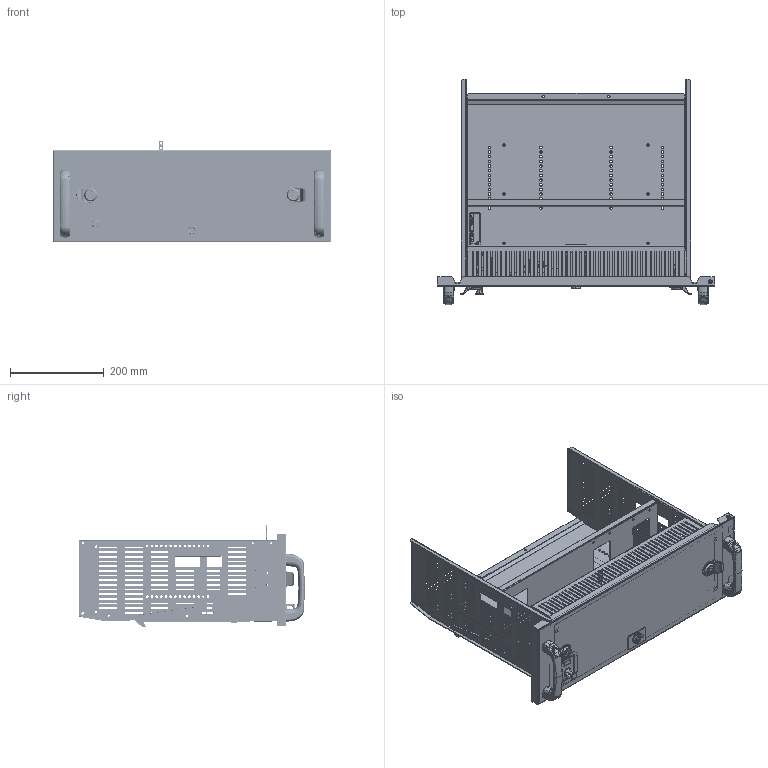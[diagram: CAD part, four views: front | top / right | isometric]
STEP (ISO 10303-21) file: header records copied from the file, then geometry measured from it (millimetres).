
FILE_DESCRIPTION(('CAx-IF Rec.Pracs.---Model Styling and Organization---1.2---2011-12-15','CAx-IF Rec.Pracs.---Geometric and Assembly Validation Properties---4.1---2014-06-16','CAx-IF Rec.Pracs.---PMI Polyline Presentation---2.0---2013-05-24'),'2;1');
FILE_NAME('R5M2W4M1B-L.stp','2021-05-05T12:20:33+03:00',(''),(''),'STEP Interface 4.4 by CT CoreTechnologie','3D_Evolution4.4 by CT CoreTechnologie','');
FILE_SCHEMA(('AUTOMOTIVE_DESIGN { 1 0 10303 214 1 1 1 1 }'));
Length unit declared in the file: millimetre
Products named in the file (73): R5M2W4M1B; RB.1946.00.00.0; RB.1942.00.00.0_-01; RB.1942.00.01.0_-01; RB.1166.00.02.0_¢ à 1; RB.1166.00.03.0_-00; RB.1166.00.04.0_-00; PF 7x14 RAMmcc 2.0_4å1; Ì6õ12-A5100231_straight; RB.1166.00.05.0; PF 3.5x7 RAMmcc 2.0_00; M6x20 GOST 17475-80 (DIN 965)_stright; 4.444.002; PR.DT477.120.02-poprawa; PR.DT477.120.01; RB.1505.00.00.1 ÑÁ; M5x12-DIN 7500M ISR_stright; Ì4-GOST R 50273-92 (DIN 985)_stright DIN EN ISO 10511 - M4 - N; RB.1505.00.02.0; RB.1505.00.01.1; RB.1504.00.00.1 ÑÁ; RB.1504.00.01.1; RB.1504.00.02.1_-01; RB.1504.00.02.1_-00; RB.1504.00.03.1; RB.1504.01.00.0 ÑÁ; RB.1504.01.01.0; M6-DIN 985 (ISO 10511) (CM250600)_stright; RB.1505.00.03.0_-00; A.6.01-GOST 11371-78 (DIN 125A) (CM240600)_ ©¡  A.6.016  11371-78; RB.1513.00.00.0; M5x8-DIN7500C_stright; RB.1505.00.04.0_-00; RB.1503.00.00.0 ÑÁ; RB.1503.00.01.0_-00; RB.1503.00.02.0_-00; RB.1503.00.03.0_123; RB.1503.00.04.0_123; RB.1503.00.05.0_123; RB.1503.00.06.0_-00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
Assembly tree (108 placements, depth 5):
  R5M2W4M1B
    RB.1946.00.00.0
    RB.1942.00.00.0_-01
      RB.1942.00.01.0_-01
      RB.1166.00.02.0_¢ à 1
      RB.1166.00.03.0_-00
      RB.1166.00.04.0_-00
      PF 7x14 RAMmcc 2.0_4å1
      Ì6õ12-A5100231_straight
      RB.1166.00.05.0  x2
      PF 3.5x7 RAMmcc 2.0_00
    M6x20 GOST 17475-80 (DIN 965)_stright  x3
    4.444.002  x2
      PR.DT477.120.02-poprawa
      PR.DT477.120.01
    RB.1505.00.00.1 ÑÁ
      M5x12-DIN 7500M ISR_stright  x6
      Ì4-GOST R 50273-92 (DIN 985)_stright DIN EN ISO 10511 - M4 - N  x10
      RB.1505.00.02.0  x2
      RB.1505.00.01.1
      RB.1504.00.00.1 ÑÁ
        RB.1504.00.01.1
        RB.1504.00.02.1_-01
        RB.1504.00.02.1_-00
        RB.1504.00.03.1
        RB.1504.01.00.0 ÑÁ
          RB.1504.01.01.0
      M6-DIN 985 (ISO 10511) (CM250600)_stright
      RB.1505.00.03.0_-00
      A.6.01-GOST 11371-78 (DIN 125A) (CM240600)_ ©¡  A.6.016  11371-78
      RB.1513.00.00.0
      M5x8-DIN7500C_stright  x2
      RB.1505.00.04.0_-00
      RB.1503.00.00.0 ÑÁ
        RB.1503.00.01.0_-00
        RB.1503.00.02.0_-00
        RB.1503.00.03.0_123
        RB.1503.00.04.0_123
        RB.1503.00.05.0_123
        RB.1503.00.06.0_-00
        RB.1503.00.07.0_-00
      RB.1505.00.05.0_-00
      RB.1505.00.06.0
      RB.1500.00.00.1 ÑÁ_-00 (ëª«)
        Ì4-GOST R 50273-92 (DIN 985)_stright DIN EN ISO 10511 - M4 - N
        M4x25 GOST 17473-80 (DIN 7985)_stright
        RB.1500.00.03.0
        RB.1500.00.04.1_-00
        RB.1500.00.05.1
        RB.1500.00.06.0
        RB.1500.00.07.0
        RB.1500.00.08.1
        M6-DIN 985 (ISO 10511) (CM250600)_stright
    AC00C148_AC00C148  x2
    RB.1497.00.00.0 ÑÁ_-00
      RB.1497.00.06.0_-00
      RB.1497.00.03.0_-00
      M5x8-DIN7500C_stright  x2
      RB.1497.00.01.0_-00
      RB.1497.00.02.0
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Bounding box: 594 x 482.84 x 218.43 mm (x, y, z)
Surface area: 1583196.2 mm2 (no closed solid volume)
Topology: 0 solids, 150 shells, 5508 faces, 14561 edges, 9240 vertices
Faces by surface type: plane 2904, cylinder 1483, bspline 1121
Full cylindrical faces by diameter (mm): 3.2 x2
Entity records: 151725 total; most frequent: CARTESIAN_POINT 41275, ORIENTED_EDGE 22512, DIRECTION 21424, EDGE_CURVE 11280, VECTOR 7876, LINE 7876, VERTEX_POINT 7269, AXIS2_PLACEMENT_3D 6774
